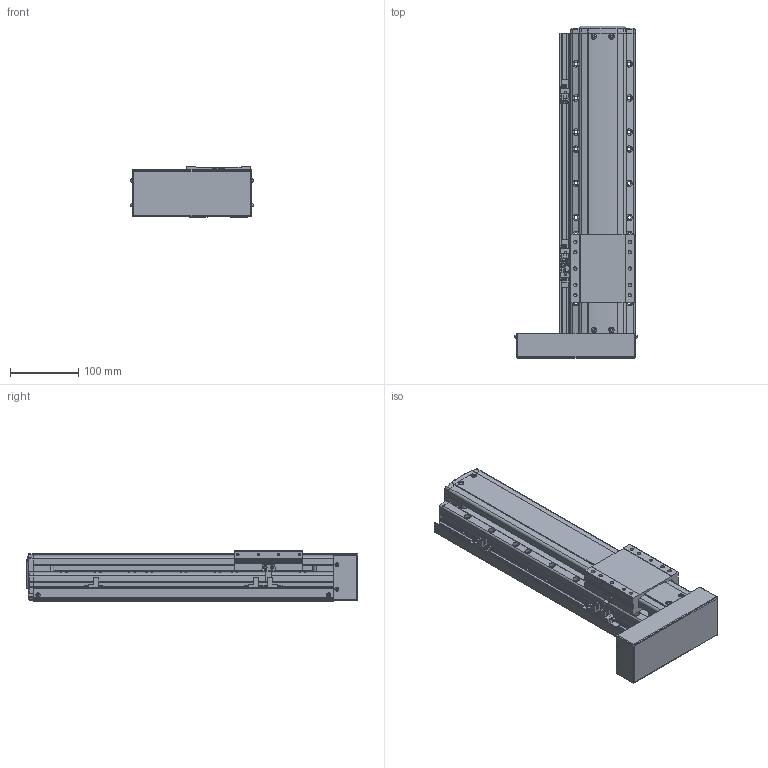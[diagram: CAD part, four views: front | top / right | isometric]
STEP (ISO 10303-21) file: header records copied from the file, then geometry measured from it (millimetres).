
FILE_DESCRIPTION(('STEP AP214'),'1');
FILE_NAME('Z:/Web/3D/PSA95/STP/PSA95-250 (3D)/PSA95ㅁㅁ-250PL+3SL.stp','2014-07-03T00:02:54',(' '),(' '),'Spatial InterOp 3D',' ',' ');
FILE_SCHEMA(('automotive_design'));
Length unit declared in the file: millimetre
Products named in the file (41): BASE; RRCV; 스크루 : Round - M4.0 x 10.0; 너트 : Square - M10.0 x 220.7419; RR1500; FRCV-090; 스크루 : Round - M4.0 x 6.0; SLBL-PA90; MOTOR PLATE COVER; 스크루 : Round - M3.0 x 6.0; EE-SX674; SBK-SX674-352; M3.0 x 6.0; SRL-16x17-380L; SGD-PA95; 스크루 : Round - M3.0 x 8.0
Bounding box: 179.13 x 486.5 x 74 mm (x, y, z)
Volume: 2947900.3 mm3; surface area: 386189.4 mm2
Topology: 41 solids, 41 shells, 2384 faces, 6354 edges, 4082 vertices
Faces by surface type: plane 1404, cylinder 667, cone 213, sphere 62, bspline 24, torus 14
Entity records: 95648 total; most frequent: CARTESIAN_POINT 15856, DIRECTION 12636, ORIENTED_EDGE 12452, EDGE_CURVE 6226, LINE 4284, VECTOR 4284, AXIS2_PLACEMENT_3D 4176, VERTEX_POINT 4082
